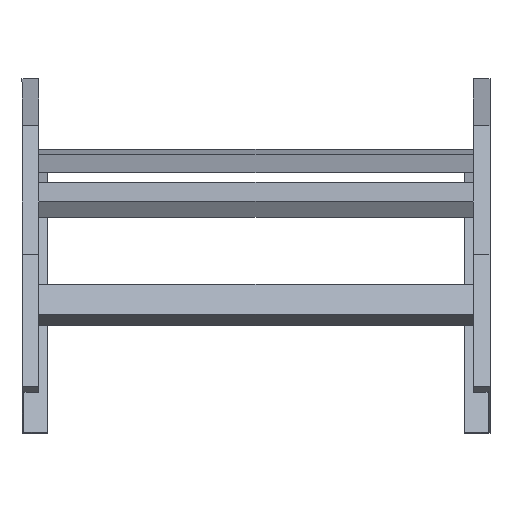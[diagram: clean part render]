
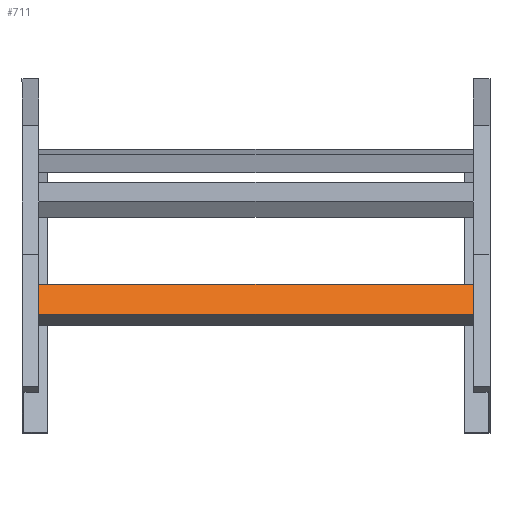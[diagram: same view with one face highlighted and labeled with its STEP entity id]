
A CAD part, top view. The second image highlights one B-rep face of the part: STEP entity #711.
In plain terms, the highlighted planar face has unit normal (0, 0.609, 0.793) as drawn and (0, 1, 0) by its records, which use the part's own axes.
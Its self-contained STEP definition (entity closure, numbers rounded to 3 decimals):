
#9 = EDGE_CURVE ( 'NONE', #87, #1286, #1430, .T. ) ;
#24 = CARTESIAN_POINT ( 'NONE',  ( -248., 20., 20.25 ) ) ;
#87 = VERTEX_POINT ( 'NONE', #1361 ) ;
#102 = DIRECTION ( 'NONE',  ( 0., -1., 0. ) ) ;
#126 = CARTESIAN_POINT ( 'NONE',  ( -248., 20., 20.25 ) ) ;
#179 = DIRECTION ( 'NONE',  ( -1., 0., 0. ) ) ;
#220 = VECTOR ( 'NONE', #295, 1000. ) ;
#225 = VECTOR ( 'NONE', #1586, 1000. ) ;
#234 = PLANE ( 'NONE',  #956 ) ;
#295 = DIRECTION ( 'NONE',  ( -1., 0., 0. ) ) ;
#356 = VECTOR ( 'NONE', #574, 1000. ) ;
#368 = VERTEX_POINT ( 'NONE', #916 ) ;
#419 = EDGE_CURVE ( 'NONE', #1360, #87, #560, .T. ) ;
#432 = LINE ( 'NONE', #1572, #356 ) ;
#473 = CARTESIAN_POINT ( 'NONE',  ( 248., 20., 20.25 ) ) ;
#528 = DIRECTION ( 'NONE',  ( 0., 0., -1. ) ) ;
#532 = ORIENTED_EDGE ( 'NONE', *, *, #419, .T. ) ;
#555 = EDGE_CURVE ( 'NONE', #368, #1286, #824, .T. ) ;
#560 = LINE ( 'NONE', #944, #220 ) ;
#574 = DIRECTION ( 'NONE',  ( 0., 0., 1. ) ) ;
#682 = ORIENTED_EDGE ( 'NONE', *, *, #9, .T. ) ;
#711 = ADVANCED_FACE ( 'NONE', ( #999 ), #234, .F. ) ;
#727 = EDGE_CURVE ( 'NONE', #1360, #368, #432, .T. ) ;
#824 = LINE ( 'NONE', #473, #998 ) ;
#916 = CARTESIAN_POINT ( 'NONE',  ( 248., 20., 20.25 ) ) ;
#944 = CARTESIAN_POINT ( 'NONE',  ( 248., 20., -20.25 ) ) ;
#956 = AXIS2_PLACEMENT_3D ( 'NONE', #1415, #102, #528 ) ;
#998 = VECTOR ( 'NONE', #179, 1000. ) ;
#999 = FACE_OUTER_BOUND ( 'NONE', #1611, .T. ) ;
#1198 = ORIENTED_EDGE ( 'NONE', *, *, #727, .F. ) ;
#1286 = VERTEX_POINT ( 'NONE', #24 ) ;
#1360 = VERTEX_POINT ( 'NONE', #1499 ) ;
#1361 = CARTESIAN_POINT ( 'NONE',  ( -248., 20., -20.25 ) ) ;
#1415 = CARTESIAN_POINT ( 'NONE',  ( 248., 20., 20.25 ) ) ;
#1430 = LINE ( 'NONE', #126, #225 ) ;
#1485 = ORIENTED_EDGE ( 'NONE', *, *, #555, .F. ) ;
#1499 = CARTESIAN_POINT ( 'NONE',  ( 248., 20., -20.25 ) ) ;
#1572 = CARTESIAN_POINT ( 'NONE',  ( 248., 20., 20.25 ) ) ;
#1586 = DIRECTION ( 'NONE',  ( 0., 0., 1. ) ) ;
#1611 = EDGE_LOOP ( 'NONE', ( #682, #1485, #1198, #532 ) ) ;
